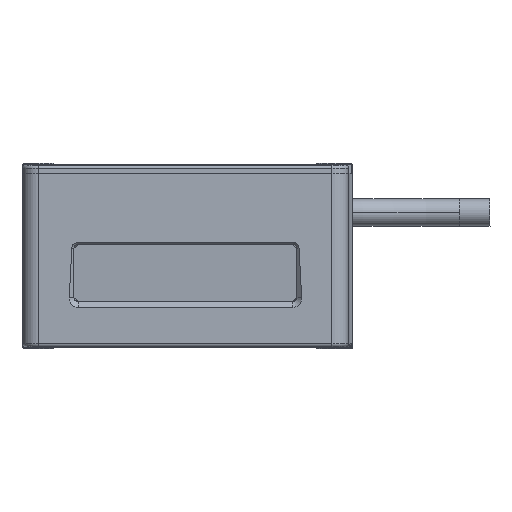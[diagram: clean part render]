
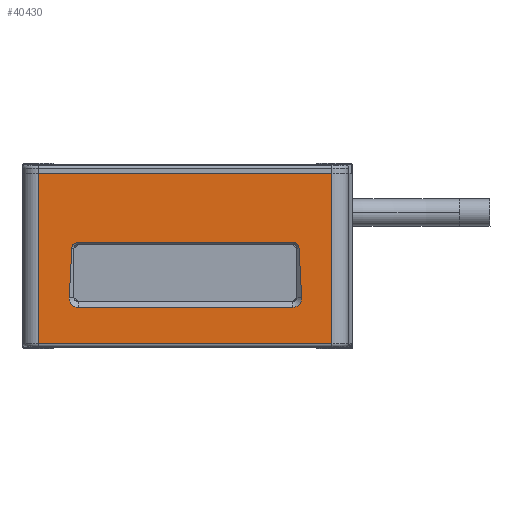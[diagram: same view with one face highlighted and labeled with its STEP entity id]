
A CAD part, left-side view. The second image highlights one B-rep face of the part: STEP entity #40430.
In plain terms, the highlighted planar face has unit normal (-1, 0, 0).
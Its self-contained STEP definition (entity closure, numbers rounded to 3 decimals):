
#11171 = CARTESIAN_POINT ( 'NONE',  ( 0., 13.5, 25.822 ) ) ;
#11172 = CARTESIAN_POINT ( 'NONE',  ( 0., 12.639, 25.822 ) ) ;
#11173 = CARTESIAN_POINT ( 'NONE',  ( 0., 12.014, 25.227 ) ) ;
#11174 = CARTESIAN_POINT ( 'NONE',  ( 0., 11.969, 24.365 ) ) ;
#11176 =( BOUNDED_CURVE ( )  B_SPLINE_CURVE ( 3, ( #11174, #11173, #11172, #11171 ),
 .UNSPECIFIED., .F., .F. ) 
 B_SPLINE_CURVE_WITH_KNOTS ( ( 4, 4 ),
 ( 1.623, 3.142 ),
 .UNSPECIFIED. ) 
 CURVE ( )  GEOMETRIC_REPRESENTATION_ITEM ( )  RATIONAL_B_SPLINE_CURVE ( ( 1., 0.817, 0.817, 1. ) ) 
 REPRESENTATION_ITEM ( '' )  );
#11177 = FACE_BOUND ( 'NONE', #40444, .T. ) ;
#11178 = FACE_OUTER_BOUND ( 'NONE', #40431, .T. ) ;
#11179 = CARTESIAN_POINT ( 'NONE',  ( 0., 13.5, 25.822 ) ) ;
#11180 = DIRECTION ( 'NONE',  ( 0., 1., 0. ) ) ;
#11181 = VECTOR ( 'NONE', #11180, 1000. ) ;
#11182 = CARTESIAN_POINT ( 'NONE',  ( 0., 0., 25.822 ) ) ;
#11183 = LINE ( 'NONE', #11182, #11181 ) ;
#11188 = CARTESIAN_POINT ( 'NONE',  ( 0., 4., 42.5 ) ) ;
#11189 = DIRECTION ( 'NONE',  ( 0., 0., 1. ) ) ;
#11190 = VECTOR ( 'NONE', #11189, 1000. ) ;
#11191 = CARTESIAN_POINT ( 'NONE',  ( 0., 4., 45. ) ) ;
#11192 = LINE ( 'NONE', #11191, #11190 ) ;
#11193 = CARTESIAN_POINT ( 'NONE',  ( 0., 4., 1.2 ) ) ;
#11194 = DIRECTION ( 'NONE',  ( 0., -1., 0. ) ) ;
#11195 = VECTOR ( 'NONE', #11194, 1000. ) ;
#11196 = CARTESIAN_POINT ( 'NONE',  ( 0., 4., 1.2 ) ) ;
#11197 = LINE ( 'NONE', #11196, #11195 ) ;
#11198 = CARTESIAN_POINT ( 'NONE',  ( 0., 75., 1.2 ) ) ;
#11199 = CARTESIAN_POINT ( 'NONE',  ( 0., 75., 42.5 ) ) ;
#11200 = DIRECTION ( 'NONE',  ( 0., 0., -1. ) ) ;
#11201 = VECTOR ( 'NONE', #11200, 1000. ) ;
#11202 = CARTESIAN_POINT ( 'NONE',  ( 0., 75., 45. ) ) ;
#11203 = LINE ( 'NONE', #11202, #11201 ) ;
#11204 = DIRECTION ( 'NONE',  ( 0., 0., -1. ) ) ;
#11205 = DIRECTION ( 'NONE',  ( 1., 0., 0. ) ) ;
#11206 = CARTESIAN_POINT ( 'NONE',  ( 0., 0., 45. ) ) ;
#11207 = AXIS2_PLACEMENT_3D ( 'NONE', #11206, #11205, #11204 ) ;
#11208 = PLANE ( 'NONE',  #11207 ) ;
#11240 = DIRECTION ( 'NONE',  ( 0., -1., 0. ) ) ;
#11241 = VECTOR ( 'NONE', #11240, 1000. ) ;
#11242 = CARTESIAN_POINT ( 'NONE',  ( 0., 79., 42.5 ) ) ;
#11243 = LINE ( 'NONE', #11242, #11241 ) ;
#11313 = DIRECTION ( 'NONE',  ( 0., -1., 0. ) ) ;
#11314 = VECTOR ( 'NONE', #11313, 1000. ) ;
#11315 = CARTESIAN_POINT ( 'NONE',  ( 0., 0., 10.066 ) ) ;
#11317 = CARTESIAN_POINT ( 'NONE',  ( 0., 11.34, 12.348 ) ) ;
#11318 = CARTESIAN_POINT ( 'NONE',  ( 0., 11.271, 11.026 ) ) ;
#11319 = CARTESIAN_POINT ( 'NONE',  ( 0., 12.179, 10.066 ) ) ;
#11320 = CARTESIAN_POINT ( 'NONE',  ( 0., 13.5, 10.066 ) ) ;
#11321 =( BOUNDED_CURVE ( )  B_SPLINE_CURVE ( 3, ( #11320, #11319, #11318, #11317 ),
 .UNSPECIFIED., .F., .F. ) 
 B_SPLINE_CURVE_WITH_KNOTS ( ( 4, 4 ),
 ( 0., 1.623 ),
 .UNSPECIFIED. ) 
 CURVE ( )  GEOMETRIC_REPRESENTATION_ITEM ( )  RATIONAL_B_SPLINE_CURVE ( ( 1., 0.792, 0.792, 1. ) ) 
 REPRESENTATION_ITEM ( '' )  );
#11322 = LINE ( 'NONE', #11315, #11314 ) ;
#11324 = CARTESIAN_POINT ( 'NONE',  ( 0., 13.5, 10.066 ) ) ;
#11325 = CARTESIAN_POINT ( 'NONE',  ( 0., 11.34, 12.348 ) ) ;
#11326 = DIRECTION ( 'NONE',  ( 0., 0.052, 0.999 ) ) ;
#11327 = VECTOR ( 'NONE', #11326, 1000. ) ;
#11328 = CARTESIAN_POINT ( 'NONE',  ( 0., 13.013, 44.319 ) ) ;
#11329 = LINE ( 'NONE', #11328, #11327 ) ;
#11330 = CARTESIAN_POINT ( 'NONE',  ( 0., 11.969, 24.365 ) ) ;
#11333 = CARTESIAN_POINT ( 'NONE',  ( 0., 65.5, 10.066 ) ) ;
#11334 = CARTESIAN_POINT ( 'NONE',  ( 0., 67.66, 12.348 ) ) ;
#11354 = CARTESIAN_POINT ( 'NONE',  ( 0., 67.031, 24.365 ) ) ;
#11355 = CARTESIAN_POINT ( 'NONE',  ( 0., 66.986, 25.227 ) ) ;
#11356 = CARTESIAN_POINT ( 'NONE',  ( 0., 66.361, 25.822 ) ) ;
#11357 = CARTESIAN_POINT ( 'NONE',  ( 0., 65.5, 25.822 ) ) ;
#11358 = CARTESIAN_POINT ( 'NONE',  ( 0., 65.5, 25.822 ) ) ;
#11359 =( BOUNDED_CURVE ( )  B_SPLINE_CURVE ( 3, ( #11357, #11356, #11355, #11354 ),
 .UNSPECIFIED., .F., .F. ) 
 B_SPLINE_CURVE_WITH_KNOTS ( ( 4, 4 ),
 ( 3.142, 4.66 ),
 .UNSPECIFIED. ) 
 CURVE ( )  GEOMETRIC_REPRESENTATION_ITEM ( )  RATIONAL_B_SPLINE_CURVE ( ( 1., 0.817, 0.817, 1. ) ) 
 REPRESENTATION_ITEM ( '' )  );
#11361 = CARTESIAN_POINT ( 'NONE',  ( 0., 67.031, 24.365 ) ) ;
#11362 = DIRECTION ( 'NONE',  ( 0., 0.052, -0.999 ) ) ;
#11363 = VECTOR ( 'NONE', #11362, 1000. ) ;
#11364 = CARTESIAN_POINT ( 'NONE',  ( 0., 65.771, 48.442 ) ) ;
#11365 = LINE ( 'NONE', #11364, #11363 ) ;
#11366 = CARTESIAN_POINT ( 'NONE',  ( 0., 65.5, 10.066 ) ) ;
#11367 = CARTESIAN_POINT ( 'NONE',  ( 0., 66.821, 10.066 ) ) ;
#11368 = CARTESIAN_POINT ( 'NONE',  ( 0., 67.729, 11.026 ) ) ;
#11369 = CARTESIAN_POINT ( 'NONE',  ( 0., 67.66, 12.348 ) ) ;
#11370 =( BOUNDED_CURVE ( )  B_SPLINE_CURVE ( 3, ( #11369, #11368, #11367, #11366 ),
 .UNSPECIFIED., .F., .F. ) 
 B_SPLINE_CURVE_WITH_KNOTS ( ( 4, 4 ),
 ( 4.66, 6.283 ),
 .UNSPECIFIED. ) 
 CURVE ( )  GEOMETRIC_REPRESENTATION_ITEM ( )  RATIONAL_B_SPLINE_CURVE ( ( 1., 0.792, 0.792, 1. ) ) 
 REPRESENTATION_ITEM ( '' )  );
#40426 = EDGE_CURVE ( 'NONE', #40427, #40517, #11183, .T. ) ;
#40427 = VERTEX_POINT ( 'NONE', #11179 ) ;
#40428 = ORIENTED_EDGE ( 'NONE', *, *, #40429, .F. ) ;
#40429 = EDGE_CURVE ( 'NONE', #40491, #40427, #11176, .T. ) ;
#40430 = ADVANCED_FACE ( 'NONE', ( #11178, #11177 ), #11208, .F. ) ;
#40431 = EDGE_LOOP ( 'NONE', ( #40432, #40436, #40439, #40442 ) ) ;
#40432 = ORIENTED_EDGE ( 'NONE', *, *, #40433, .T. ) ;
#40433 = EDGE_CURVE ( 'NONE', #40434, #40435, #11203, .T. ) ;
#40434 = VERTEX_POINT ( 'NONE', #11199 ) ;
#40435 = VERTEX_POINT ( 'NONE', #11198 ) ;
#40436 = ORIENTED_EDGE ( 'NONE', *, *, #40437, .T. ) ;
#40437 = EDGE_CURVE ( 'NONE', #40435, #40438, #11197, .T. ) ;
#40438 = VERTEX_POINT ( 'NONE', #11193 ) ;
#40439 = ORIENTED_EDGE ( 'NONE', *, *, #40440, .T. ) ;
#40440 = EDGE_CURVE ( 'NONE', #40438, #40441, #11192, .T. ) ;
#40441 = VERTEX_POINT ( 'NONE', #11188 ) ;
#40442 = ORIENTED_EDGE ( 'NONE', *, *, #40443, .F. ) ;
#40443 = EDGE_CURVE ( 'NONE', #40434, #40441, #11243, .T. ) ;
#40444 = EDGE_LOOP ( 'NONE', ( #40445, #40511, #40514, #40518, #40428, #40492, #40495, #40498 ) ) ;
#40445 = ORIENTED_EDGE ( 'NONE', *, *, #40508, .F. ) ;
#40491 = VERTEX_POINT ( 'NONE', #11330 ) ;
#40492 = ORIENTED_EDGE ( 'NONE', *, *, #40493, .F. ) ;
#40493 = EDGE_CURVE ( 'NONE', #40494, #40491, #11329, .T. ) ;
#40494 = VERTEX_POINT ( 'NONE', #11325 ) ;
#40495 = ORIENTED_EDGE ( 'NONE', *, *, #40496, .F. ) ;
#40496 = EDGE_CURVE ( 'NONE', #40497, #40494, #11321, .T. ) ;
#40497 = VERTEX_POINT ( 'NONE', #11324 ) ;
#40498 = ORIENTED_EDGE ( 'NONE', *, *, #40499, .F. ) ;
#40499 = EDGE_CURVE ( 'NONE', #40510, #40497, #11322, .T. ) ;
#40508 = EDGE_CURVE ( 'NONE', #40509, #40510, #11370, .T. ) ;
#40509 = VERTEX_POINT ( 'NONE', #11334 ) ;
#40510 = VERTEX_POINT ( 'NONE', #11333 ) ;
#40511 = ORIENTED_EDGE ( 'NONE', *, *, #40512, .F. ) ;
#40512 = EDGE_CURVE ( 'NONE', #40513, #40509, #11365, .T. ) ;
#40513 = VERTEX_POINT ( 'NONE', #11361 ) ;
#40514 = ORIENTED_EDGE ( 'NONE', *, *, #40515, .F. ) ;
#40515 = EDGE_CURVE ( 'NONE', #40517, #40513, #11359, .T. ) ;
#40517 = VERTEX_POINT ( 'NONE', #11358 ) ;
#40518 = ORIENTED_EDGE ( 'NONE', *, *, #40426, .F. ) ;
